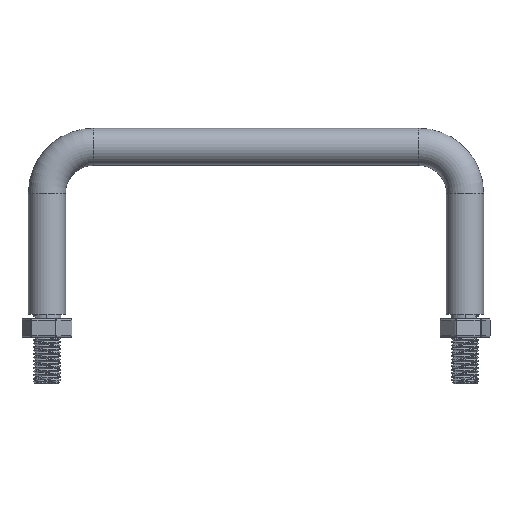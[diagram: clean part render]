
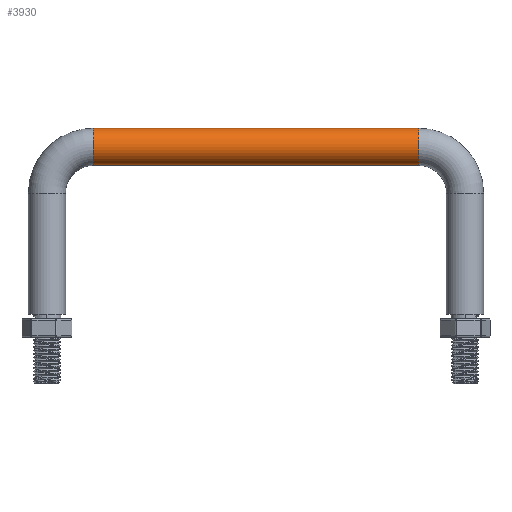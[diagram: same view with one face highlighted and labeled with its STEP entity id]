
A CAD part, top view. The second image highlights one B-rep face of the part: STEP entity #3930.
In plain terms, the highlighted cylindrical face has radius 4 mm (diameter 8 mm), a partial arc.
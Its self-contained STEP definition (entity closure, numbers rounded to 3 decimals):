
#242 = CIRCLE ( 'NONE', #6977, 4. ) ;
#674 = CARTESIAN_POINT ( 'NONE',  ( -35., 0., 0. ) ) ;
#1015 = CARTESIAN_POINT ( 'NONE',  ( -35., -4., 0. ) ) ;
#1107 = ORIENTED_EDGE ( 'NONE', *, *, #12184, .T. ) ;
#1333 = VERTEX_POINT ( 'NONE', #6810 ) ;
#1552 = DIRECTION ( 'NONE',  ( 1., 0., 0. ) ) ;
#2025 = DIRECTION ( 'NONE',  ( 1., 0., 0. ) ) ;
#2274 = VECTOR ( 'NONE', #5342, 1000. ) ;
#2540 = DIRECTION ( 'NONE',  ( 0., 1., 0. ) ) ;
#3117 = EDGE_CURVE ( 'NONE', #4800, #1333, #242, .T. ) ;
#3725 = VECTOR ( 'NONE', #2025, 1000. ) ;
#3917 = DIRECTION ( 'NONE',  ( 0., 0., 1. ) ) ;
#3930 = ADVANCED_FACE ( 'NONE', ( #6679 ), #5562, .T. ) ;
#4061 = EDGE_CURVE ( 'NONE', #10976, #4166, #12942, .T. ) ;
#4166 = VERTEX_POINT ( 'NONE', #1015 ) ;
#4199 = ORIENTED_EDGE ( 'NONE', *, *, #4061, .T. ) ;
#4800 = VERTEX_POINT ( 'NONE', #6921 ) ;
#5342 = DIRECTION ( 'NONE',  ( 1., 0., 0. ) ) ;
#5562 = CYLINDRICAL_SURFACE ( 'NONE', #10096, 4. ) ;
#6277 = LINE ( 'NONE', #10269, #2274 ) ;
#6679 = FACE_OUTER_BOUND ( 'NONE', #13022, .T. ) ;
#6810 = CARTESIAN_POINT ( 'NONE',  ( 35., -4., 0. ) ) ;
#6921 = CARTESIAN_POINT ( 'NONE',  ( 35., 4., 0. ) ) ;
#6937 = DIRECTION ( 'NONE',  ( 1., 0., 0. ) ) ;
#6977 = AXIS2_PLACEMENT_3D ( 'NONE', #7852, #11858, #3917 ) ;
#7018 = LINE ( 'NONE', #8067, #3725 ) ;
#7852 = CARTESIAN_POINT ( 'NONE',  ( 35., 0., 0. ) ) ;
#7873 = ORIENTED_EDGE ( 'NONE', *, *, #3117, .F. ) ;
#8067 = CARTESIAN_POINT ( 'NONE',  ( -35., 4., 0. ) ) ;
#8375 = CARTESIAN_POINT ( 'NONE',  ( -35., 4., 0. ) ) ;
#10096 = AXIS2_PLACEMENT_3D ( 'NONE', #674, #1552, #2540 ) ;
#10235 = EDGE_CURVE ( 'NONE', #10976, #4800, #7018, .T. ) ;
#10269 = CARTESIAN_POINT ( 'NONE',  ( -35., -4., 0. ) ) ;
#10429 = AXIS2_PLACEMENT_3D ( 'NONE', #12918, #6937, #12059 ) ;
#10976 = VERTEX_POINT ( 'NONE', #8375 ) ;
#11247 = ORIENTED_EDGE ( 'NONE', *, *, #10235, .F. ) ;
#11858 = DIRECTION ( 'NONE',  ( 1., 0., 0. ) ) ;
#12059 = DIRECTION ( 'NONE',  ( 0., 0., 1. ) ) ;
#12184 = EDGE_CURVE ( 'NONE', #4166, #1333, #6277, .T. ) ;
#12918 = CARTESIAN_POINT ( 'NONE',  ( -35., 0., 0. ) ) ;
#12942 = CIRCLE ( 'NONE', #10429, 4. ) ;
#13022 = EDGE_LOOP ( 'NONE', ( #4199, #1107, #7873, #11247 ) ) ;
